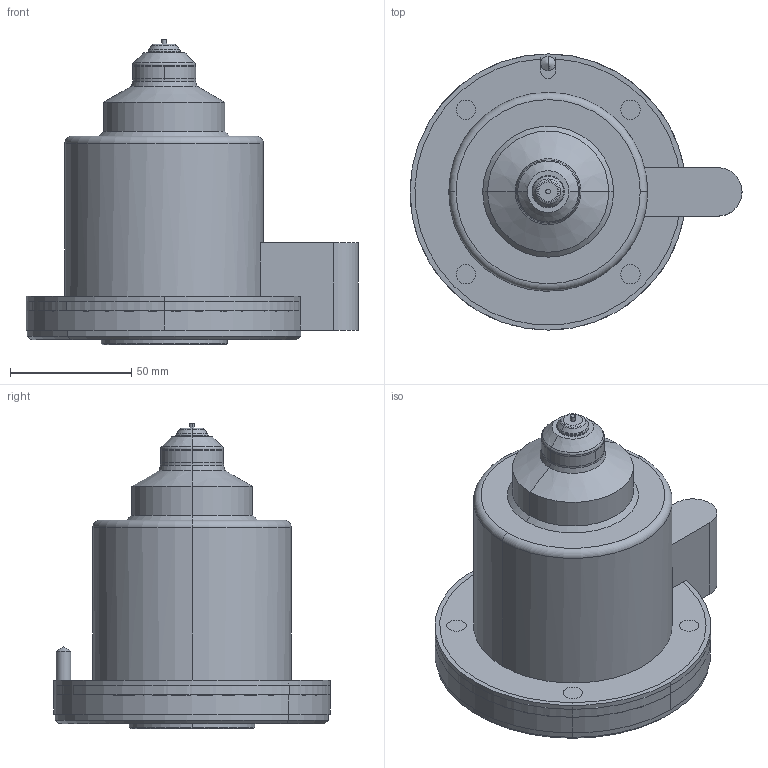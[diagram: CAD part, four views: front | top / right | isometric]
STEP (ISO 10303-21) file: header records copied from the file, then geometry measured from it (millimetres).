
FILE_DESCRIPTION (( 'STEP AP214' ), '1' );
FILE_NAME ('SR20_OPEN_120_BAND.STEP', '2009-05-07T15:59:13', ( 'Synventive Molding Solutions' ), ( 'Synventive Molding Solutions' ), 'SwSTEP 2.0', 'SolidWorks 2008', '' );
FILE_SCHEMA (( 'AUTOMOTIVE_DESIGN' ));
Length unit declared in the file: millimetre
Products named in the file (1): SR20_OPEN_120_BAND
Bounding box: 137 x 114 x 126 mm (x, y, z)
Volume: 904003.1 mm3; surface area: 102917 mm2
Topology: 3 solids, 3 shells, 288 faces, 720 edges, 451 vertices
Faces by surface type: cylinder 121, plane 97, cone 35, torus 31, sphere 2, bspline 2
Entity records: 12431 total; most frequent: CARTESIAN_POINT 2168, DIRECTION 1564, ORIENTED_EDGE 1432, EDGE_CURVE 716, AXIS2_PLACEMENT_3D 617, VERTEX_POINT 451, LINE 330, CIRCLE 330
